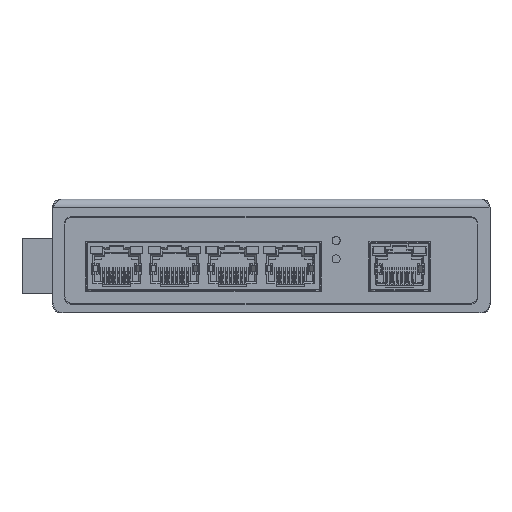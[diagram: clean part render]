
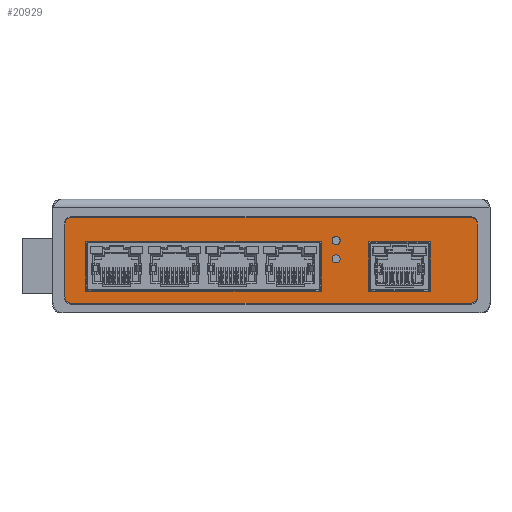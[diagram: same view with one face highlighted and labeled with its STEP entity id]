
A CAD part, front view. The second image highlights one B-rep face of the part: STEP entity #20929.
In plain terms, the highlighted planar face has unit normal (0, -1, 0).
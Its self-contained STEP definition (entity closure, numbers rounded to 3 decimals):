
#6177=DIRECTION('',(-1.,0.,0.));
#6178=VECTOR('',#6177,108.6);
#6179=CARTESIAN_POINT('',(113.3,-1.4,-4.));
#6180=LINE('',#6179,#6178);
#6181=CARTESIAN_POINT('',(113.3,-1.4,-5.8));
#6182=DIRECTION('',(0.,-1.,0.));
#6183=DIRECTION('',(1.,0.,0.));
#6184=AXIS2_PLACEMENT_3D('',#6181,#6182,#6183);
#6186=DIRECTION('',(0.,0.,1.));
#6187=VECTOR('',#6186,19.8);
#6188=CARTESIAN_POINT('',(115.1,-1.4,-25.6));
#6189=LINE('',#6188,#6187);
#6190=CARTESIAN_POINT('',(113.3,-1.4,-25.6));
#6191=DIRECTION('',(0.,-1.,0.));
#6192=DIRECTION('',(0.,0.,-1.));
#6193=AXIS2_PLACEMENT_3D('',#6190,#6191,#6192);
#6195=DIRECTION('',(1.,0.,0.));
#6196=VECTOR('',#6195,108.6);
#6197=CARTESIAN_POINT('',(4.7,-1.4,-27.4));
#6198=LINE('',#6197,#6196);
#6199=CARTESIAN_POINT('',(4.7,-1.4,-25.6));
#6200=DIRECTION('',(0.,-1.,0.));
#6201=DIRECTION('',(-1.,0.,0.));
#6202=AXIS2_PLACEMENT_3D('',#6199,#6200,#6201);
#6204=DIRECTION('',(0.,0.,-1.));
#6205=VECTOR('',#6204,19.8);
#6206=CARTESIAN_POINT('',(2.9,-1.4,-5.8));
#6207=LINE('',#6206,#6205);
#6208=CARTESIAN_POINT('',(4.7,-1.4,-5.8));
#6209=DIRECTION('',(0.,-1.,0.));
#6210=DIRECTION('',(0.,0.,1.));
#6211=AXIS2_PLACEMENT_3D('',#6208,#6209,#6210);
#6213=DIRECTION('',(0.,0.,-1.));
#6214=VECTOR('',#6213,13.6);
#6215=CARTESIAN_POINT('',(8.51,-1.4,-10.5));
#6216=LINE('',#6215,#6214);
#6217=DIRECTION('',(1.,0.,0.));
#6218=VECTOR('',#6217,64.15);
#6219=CARTESIAN_POINT('',(8.51,-1.4,-24.1));
#6220=LINE('',#6219,#6218);
#6221=DIRECTION('',(0.,0.,1.));
#6222=VECTOR('',#6221,13.6);
#6223=CARTESIAN_POINT('',(72.66,-1.4,-24.1));
#6224=LINE('',#6223,#6222);
#6225=DIRECTION('',(-1.,0.,0.));
#6226=VECTOR('',#6225,64.15);
#6227=CARTESIAN_POINT('',(72.66,-1.4,-10.5));
#6228=LINE('',#6227,#6226);
#6229=DIRECTION('',(-1.,0.,0.));
#6230=VECTOR('',#6229,16.65);
#6231=CARTESIAN_POINT('',(102.31,-1.4,-10.6));
#6232=LINE('',#6231,#6230);
#6233=DIRECTION('',(0.,0.,-1.));
#6234=VECTOR('',#6233,13.6);
#6235=CARTESIAN_POINT('',(85.66,-1.4,-10.6));
#6236=LINE('',#6235,#6234);
#6237=DIRECTION('',(1.,0.,0.));
#6238=VECTOR('',#6237,16.65);
#6239=CARTESIAN_POINT('',(85.66,-1.4,-24.2));
#6240=LINE('',#6239,#6238);
#6241=DIRECTION('',(0.,0.,1.));
#6242=VECTOR('',#6241,13.6);
#6243=CARTESIAN_POINT('',(102.31,-1.4,-24.2));
#6244=LINE('',#6243,#6242);
#6245=CARTESIAN_POINT('',(76.7,-1.4,-10.3));
#6246=DIRECTION('',(0.,-1.,0.));
#6247=DIRECTION('',(1.,0.,0.));
#6248=AXIS2_PLACEMENT_3D('',#6245,#6246,#6247);
#6250=CARTESIAN_POINT('',(76.7,-1.4,-10.3));
#6251=DIRECTION('',(0.,-1.,0.));
#6252=DIRECTION('',(-1.,0.,0.));
#6253=AXIS2_PLACEMENT_3D('',#6250,#6251,#6252);
#6255=CARTESIAN_POINT('',(76.7,-1.4,-15.3));
#6256=DIRECTION('',(0.,-1.,0.));
#6257=DIRECTION('',(1.,0.,0.));
#6258=AXIS2_PLACEMENT_3D('',#6255,#6256,#6257);
#6260=CARTESIAN_POINT('',(76.7,-1.4,-15.3));
#6261=DIRECTION('',(0.,-1.,0.));
#6262=DIRECTION('',(-1.,0.,0.));
#6263=AXIS2_PLACEMENT_3D('',#6260,#6261,#6262);
#9786=CARTESIAN_POINT('',(113.3,-1.4,-4.));
#9787=CARTESIAN_POINT('',(4.7,-1.4,-4.));
#9788=VERTEX_POINT('',#9786);
#9789=VERTEX_POINT('',#9787);
#9790=CARTESIAN_POINT('',(2.9,-1.4,-5.8));
#9791=VERTEX_POINT('',#9790);
#9792=CARTESIAN_POINT('',(2.9,-1.4,-25.6));
#9793=VERTEX_POINT('',#9792);
#9794=CARTESIAN_POINT('',(4.7,-1.4,-27.4));
#9795=VERTEX_POINT('',#9794);
#9796=CARTESIAN_POINT('',(113.3,-1.4,-27.4));
#9797=VERTEX_POINT('',#9796);
#9798=CARTESIAN_POINT('',(115.1,-1.4,-25.6));
#9799=VERTEX_POINT('',#9798);
#9800=CARTESIAN_POINT('',(115.1,-1.4,-5.8));
#9801=VERTEX_POINT('',#9800);
#9818=CARTESIAN_POINT('',(8.51,-1.4,-10.5));
#9819=CARTESIAN_POINT('',(8.51,-1.4,-24.1));
#9820=VERTEX_POINT('',#9818);
#9821=VERTEX_POINT('',#9819);
#9822=CARTESIAN_POINT('',(72.66,-1.4,-24.1));
#9823=VERTEX_POINT('',#9822);
#9824=CARTESIAN_POINT('',(72.66,-1.4,-10.5));
#9825=VERTEX_POINT('',#9824);
#9826=CARTESIAN_POINT('',(102.31,-1.4,-10.6));
#9827=CARTESIAN_POINT('',(85.66,-1.4,-10.6));
#9828=VERTEX_POINT('',#9826);
#9829=VERTEX_POINT('',#9827);
#9830=CARTESIAN_POINT('',(85.66,-1.4,-24.2));
#9831=VERTEX_POINT('',#9830);
#9832=CARTESIAN_POINT('',(102.31,-1.4,-24.2));
#9833=VERTEX_POINT('',#9832);
#9842=CARTESIAN_POINT('',(77.8,-1.4,-10.3));
#9843=CARTESIAN_POINT('',(75.6,-1.4,-10.3));
#9844=VERTEX_POINT('',#9842);
#9845=VERTEX_POINT('',#9843);
#9846=CARTESIAN_POINT('',(77.8,-1.4,-15.3));
#9847=CARTESIAN_POINT('',(75.6,-1.4,-15.3));
#9848=VERTEX_POINT('',#9846);
#9849=VERTEX_POINT('',#9847);
#20878=CARTESIAN_POINT('',(0.,-1.4,0.));
#20879=DIRECTION('',(0.,-1.,0.));
#20880=DIRECTION('',(1.,0.,0.));
#20881=AXIS2_PLACEMENT_3D('',#20878,#20879,#20880);
#20882=PLANE('',#20881);
#20884=ORIENTED_EDGE('',*,*,#20883,.F.);
#20886=ORIENTED_EDGE('',*,*,#20885,.F.);
#20888=ORIENTED_EDGE('',*,*,#20887,.F.);
#20890=ORIENTED_EDGE('',*,*,#20889,.F.);
#20892=ORIENTED_EDGE('',*,*,#20891,.F.);
#20894=ORIENTED_EDGE('',*,*,#20893,.F.);
#20896=ORIENTED_EDGE('',*,*,#20895,.F.);
#20898=ORIENTED_EDGE('',*,*,#20897,.F.);
#20899=EDGE_LOOP('',(#20884,#20886,#20888,#20890,#20892,#20894,#20896,#20898));
#20900=FACE_OUTER_BOUND('',#20899,.F.);
#20901=ORIENTED_EDGE('',*,*,#20802,.T.);
#20902=ORIENTED_EDGE('',*,*,#20824,.T.);
#20903=ORIENTED_EDGE('',*,*,#20845,.T.);
#20904=ORIENTED_EDGE('',*,*,#20865,.T.);
#20905=EDGE_LOOP('',(#20901,#20902,#20903,#20904));
#20906=FACE_BOUND('',#20905,.F.);
#20908=ORIENTED_EDGE('',*,*,#20907,.T.);
#20910=ORIENTED_EDGE('',*,*,#20909,.T.);
#20912=ORIENTED_EDGE('',*,*,#20911,.T.);
#20914=ORIENTED_EDGE('',*,*,#20913,.T.);
#20915=EDGE_LOOP('',(#20908,#20910,#20912,#20914));
#20916=FACE_BOUND('',#20915,.F.);
#20918=ORIENTED_EDGE('',*,*,#20917,.T.);
#20920=ORIENTED_EDGE('',*,*,#20919,.T.);
#20921=EDGE_LOOP('',(#20918,#20920));
#20922=FACE_BOUND('',#20921,.F.);
#20924=ORIENTED_EDGE('',*,*,#20923,.T.);
#20926=ORIENTED_EDGE('',*,*,#20925,.T.);
#20927=EDGE_LOOP('',(#20924,#20926));
#20928=FACE_BOUND('',#20927,.F.);
#6185=CIRCLE('',#6184,1.8);
#6194=CIRCLE('',#6193,1.8);
#6203=CIRCLE('',#6202,1.8);
#6212=CIRCLE('',#6211,1.8);
#6249=CIRCLE('',#6248,1.1);
#6254=CIRCLE('',#6253,1.1);
#6259=CIRCLE('',#6258,1.1);
#6264=CIRCLE('',#6263,1.1);
#20802=EDGE_CURVE('',#9820,#9821,#6216,.T.);
#20824=EDGE_CURVE('',#9821,#9823,#6220,.T.);
#20845=EDGE_CURVE('',#9823,#9825,#6224,.T.);
#20865=EDGE_CURVE('',#9825,#9820,#6228,.T.);
#20883=EDGE_CURVE('',#9788,#9789,#6180,.T.);
#20885=EDGE_CURVE('',#9801,#9788,#6185,.T.);
#20887=EDGE_CURVE('',#9799,#9801,#6189,.T.);
#20889=EDGE_CURVE('',#9797,#9799,#6194,.T.);
#20891=EDGE_CURVE('',#9795,#9797,#6198,.T.);
#20893=EDGE_CURVE('',#9793,#9795,#6203,.T.);
#20895=EDGE_CURVE('',#9791,#9793,#6207,.T.);
#20897=EDGE_CURVE('',#9789,#9791,#6212,.T.);
#20907=EDGE_CURVE('',#9828,#9829,#6232,.T.);
#20909=EDGE_CURVE('',#9829,#9831,#6236,.T.);
#20911=EDGE_CURVE('',#9831,#9833,#6240,.T.);
#20913=EDGE_CURVE('',#9833,#9828,#6244,.T.);
#20917=EDGE_CURVE('',#9844,#9845,#6249,.T.);
#20919=EDGE_CURVE('',#9845,#9844,#6254,.T.);
#20923=EDGE_CURVE('',#9848,#9849,#6259,.T.);
#20925=EDGE_CURVE('',#9849,#9848,#6264,.T.);
#20929=ADVANCED_FACE('',(#20900,#20906,#20916,#20922,#20928),#20882,.T.);
